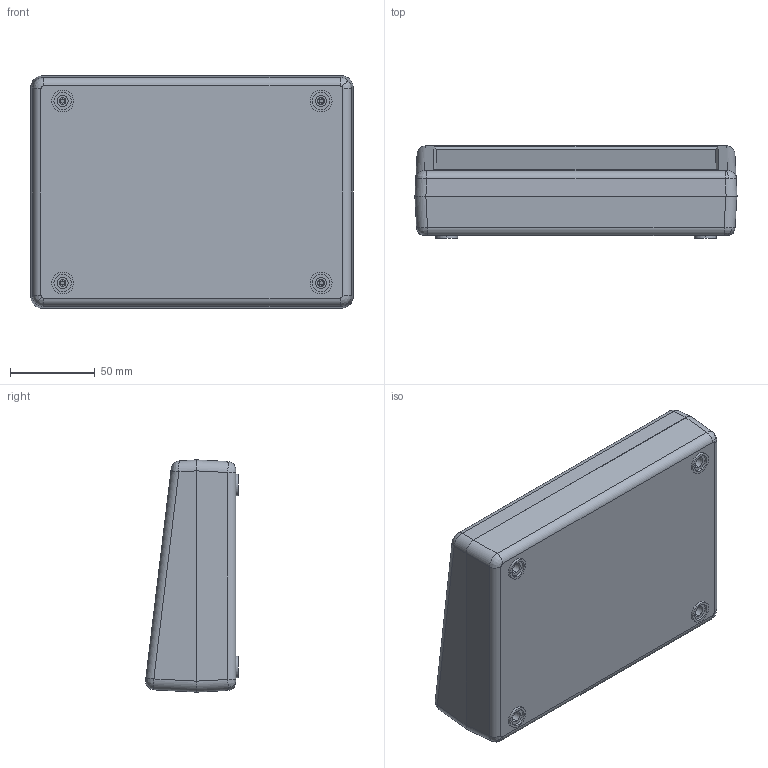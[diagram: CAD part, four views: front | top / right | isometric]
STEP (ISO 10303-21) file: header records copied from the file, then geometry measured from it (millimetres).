
FILE_DESCRIPTION (( 'STEP AP203' ), '1' );
FILE_NAME ('PT100.STEP', '2024-01-29T13:20:16', ( '' ), ( '' ), 'SwSTEP 2.0', 'SolidWorks 2021', '' );
FILE_SCHEMA (( 'CONFIG_CONTROL_DESIGN' ));
Length unit declared in the file: millimetre
Products named in the file (3): PT100
Assembly tree (2 placements, depth 2):
  PT100
    PT100
    PT100
Bounding box: 190.5 x 54.89 x 137.3 mm (x, y, z)
Volume: 243427.1 mm3; surface area: 164425 mm2
Topology: 2 solids, 2 shells, 449 faces, 1096 edges, 704 vertices
Faces by surface type: plane 190, cylinder 185, bspline 34, cone 24, torus 16
Entity records: 15048 total; most frequent: CARTESIAN_POINT 4246, DIRECTION 2204, ORIENTED_EDGE 2192, EDGE_CURVE 1096, AXIS2_PLACEMENT_3D 812, VERTEX_POINT 704, LINE 580, VECTOR 580
